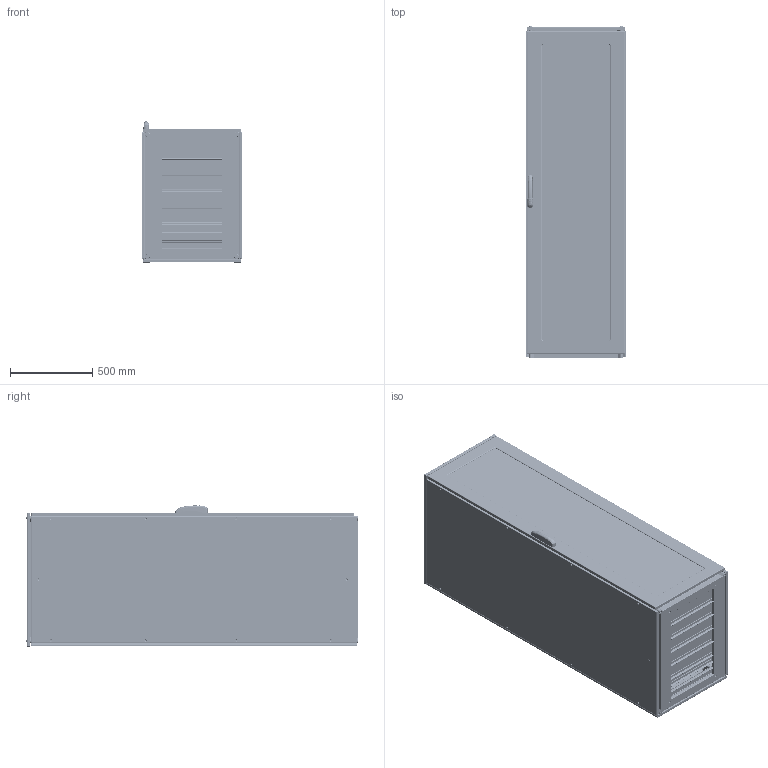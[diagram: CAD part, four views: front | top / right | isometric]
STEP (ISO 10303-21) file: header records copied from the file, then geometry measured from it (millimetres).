
FILE_DESCRIPTION (( 'STEP AP203' ), '1' );
FILE_NAME ('ENUX062008PV.STEP', '2025-05-29T08:22:40', ( '' ), ( '' ), 'SwSTEP 2.0', 'SolidWorks 2022', '' );
FILE_SCHEMA (( 'CONFIG_CONTROL_DESIGN' ));
Products named in the file (13): AR_ENUX_Struttura_0600x2000x0800; AR_ENUX_Retro_singolo_0600x2000; AR_ENUX_Plexiglass_porte_0600X2000; AR_ENUX_Vite_tetto; AR_ENUX_Fianco_0800x2000_DX; AR_ENUX_Tegolino_0600x0050; AR_ENUX_montaggio_porta_singlola_plexi_0600x2000_ANT_DX; AR_ENUX_Tetto_0600x0800; AR_ENUX_Porta_singola_plexi_0600x2000_ANT; AR_ENUX_Fianco_0800x2000_SX; AR_ENUX_nuova_maniglia_mesan; AR_ENUX_Tegolino_0600x0100; ENUX062008PV
Assembly tree (20 placements, depth 3):
  ENUX062008PV
    AR_ENUX_Struttura_0600x2000x0800
    AR_ENUX_Retro_singolo_0600x2000
    AR_ENUX_Fianco_0800x2000_SX
    AR_ENUX_Fianco_0800x2000_DX
    AR_ENUX_Tetto_0600x0800
    AR_ENUX_Vite_tetto  x4
    AR_ENUX_montaggio_porta_singlola_plexi_0600x2000_ANT_DX
      AR_ENUX_Porta_singola_plexi_0600x2000_ANT
      AR_ENUX_Plexiglass_porte_0600X2000
      AR_ENUX_nuova_maniglia_mesan
    AR_ENUX_Tegolino_0600x0100  x5
    AR_ENUX_Tegolino_0600x0050  x2
Bounding box: 612 x 2015.1 x 857 mm (x, y, z)
Volume: 14985041 mm3; surface area: 20242028 mm2
Topology: 19 solids, 19 shells, 9262 faces, 26095 edges, 16776 vertices
Faces by surface type: plane 5076, cylinder 3250, bspline 365, torus 287, cone 216, sphere 68
Entity records: 333684 total; most frequent: CARTESIAN_POINT 91573, ORIENTED_EDGE 50168, DIRECTION 47911, EDGE_CURVE 25084, LINE 17245, VECTOR 17245, VERTEX_POINT 16298, AXIS2_PLACEMENT_3D 15333
